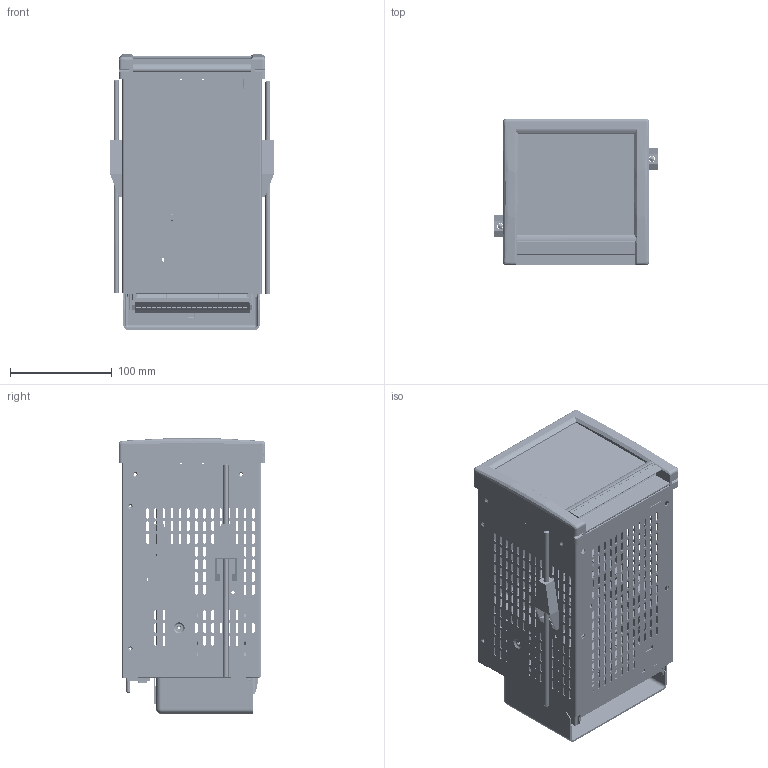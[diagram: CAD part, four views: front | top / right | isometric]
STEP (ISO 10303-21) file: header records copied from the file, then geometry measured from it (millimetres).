
FILE_DESCRIPTION((''),'2;1');
FILE_NAME('6000IGES','2012-02-20T',('chrisloe'),(''),'PRO/ENGINEER BY PARAMETRIC TECHNOLOGY CORPORATION, 2010180','PRO/ENGINEER BY PARAMETRIC TECHNOLOGY CORPORATION, 2010180','');
FILE_SCHEMA(('CONFIG_CONTROL_DESIGN'));
Products named in the file (1): 6000IGES
Bounding box: 161 x 144 x 271.04 mm (x, y, z)
Volume: 415047.1 mm3; surface area: 519659.5 mm2
Topology: 3 solids, 19 shells, 6225 faces, 16578 edges, 10264 vertices
Faces by surface type: plane 3770, cylinder 2301, cone 100, torus 36, sphere 12, bspline 6
Entity records: 195301 total; most frequent: CARTESIAN_POINT 34180, DIRECTION 33715, ORIENTED_EDGE 33108, EDGE_CURVE 16578, VECTOR 11599, LINE 11599, AXIS2_PLACEMENT_3D 11058, VERTEX_POINT 10420
